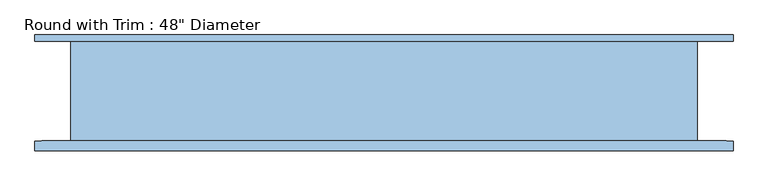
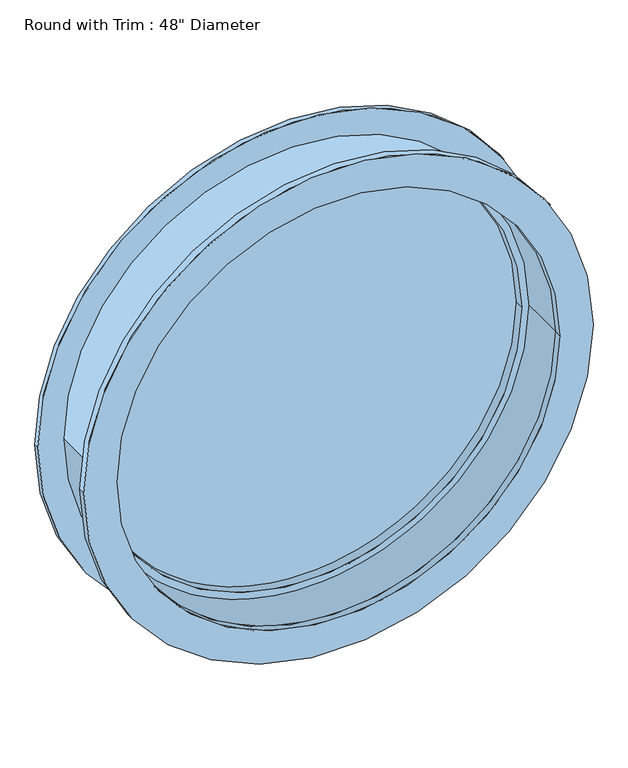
"""IFC4 building model written with IfcOpenShell, lengths in millimetres: window geometry."""

from ifc_helpers import new_model, si_unit, point, frame, frame_2d, origin, place, context, project, spatial, circle_curve, trimmed, segment, composite_curve, outline, extrude, source, transform, mapped, element, save


def window_30c34dd4(model_context):
    return source(origin(), model_context, "Body", "SweptSolid", [
        extrude(outline(composite_curve([segment(trimmed(circle_curve(frame_2d((1219.2, 152.4)), 679.45), [point((1219.2, -527.05))], [point((1219.2, 831.85))], False, "CARTESIAN"), True, "CONTINUOUS"), segment(trimmed(circle_curve(frame_2d((1219.2, 152.4)), 679.45), [point((1219.2, 831.85))], [point((1219.2, -527.05))], False, "CARTESIAN"), True, "CONTINUOUS")], self_intersect=False), holes=[composite_curve([segment(trimmed(circle_curve(frame_2d((1219.2, 152.4)), 590.55), [point((1219.2, -438.15))], [point((1219.2, 742.95))], True, "CARTESIAN"), True, "CONTINUOUS"), segment(trimmed(circle_curve(frame_2d((1219.2, 152.4)), 590.55), [point((1219.2, 742.95))], [point((1219.2, -438.15))], True, "CARTESIAN"), True, "CONTINUOUS")], self_intersect=False)]), frame((0.0, -115.8875, 0.0), z_axis=(0.0, 1.0, 0.0), x_axis=(0.0, 0.0, 1.0)), (0.0, 0.0, 1.0), 19.05),
        extrude(outline(composite_curve([segment(trimmed(circle_curve(frame_2d((1219.2, 152.4)), 679.45), [point((1219.2, -527.05))], [point((1219.2, 831.85))], False, "CARTESIAN"), True, "CONTINUOUS"), segment(trimmed(circle_curve(frame_2d((1219.2, 152.4)), 679.45), [point((1219.2, 831.85))], [point((1219.2, -527.05))], False, "CARTESIAN"), True, "CONTINUOUS")], self_intersect=False), holes=[composite_curve([segment(trimmed(circle_curve(frame_2d((1219.2, 152.4)), 590.55), [point((1219.2, -438.15))], [point((1219.2, 742.95))], True, "CARTESIAN"), True, "CONTINUOUS"), segment(trimmed(circle_curve(frame_2d((1219.2, 152.4)), 590.55), [point((1219.2, 742.95))], [point((1219.2, -438.15))], True, "CARTESIAN"), True, "CONTINUOUS")], self_intersect=False)]), frame((0.0, 96.8375, 0.0), z_axis=(0.0, 1.0, 0.0), x_axis=(0.0, 0.0, 1.0)), (0.0, 0.0, 1.0), 12.7),
        extrude(outline(composite_curve([segment(trimmed(circle_curve(frame_2d((1219.2, 152.4)), 571.5), [point((1219.2, -419.1))], [point((1219.2, 723.9))], False, "CARTESIAN"), True, "CONTINUOUS"), segment(trimmed(circle_curve(frame_2d((1219.2, 152.4)), 571.5), [point((1219.2, 723.9))], [point((1219.2, -419.1))], False, "CARTESIAN"), True, "CONTINUOUS")], self_intersect=False)), frame((0.0, 52.3875, 0.0), z_axis=(0.0, 1.0, 0.0), x_axis=(0.0, 0.0, 1.0)), (0.0, 0.0, 1.0), 12.7),
        extrude(outline(composite_curve([segment(trimmed(circle_curve(frame_2d((1219.2, 152.4)), 590.55), [point((1219.2, -438.15))], [point((1219.2, 742.95))], False, "CARTESIAN"), True, "CONTINUOUS"), segment(trimmed(circle_curve(frame_2d((1219.2, 152.4)), 590.55), [point((1219.2, 742.95))], [point((1219.2, -438.15))], False, "CARTESIAN"), True, "CONTINUOUS")], self_intersect=False), holes=[composite_curve([segment(trimmed(circle_curve(frame_2d((1219.2, 152.4)), 571.5), [point((1219.2, -419.1))], [point((1219.2, 723.9))], True, "CARTESIAN"), True, "CONTINUOUS"), segment(trimmed(circle_curve(frame_2d((1219.2, 152.4)), 571.5), [point((1219.2, 723.9))], [point((1219.2, -419.1))], True, "CARTESIAN"), True, "CONTINUOUS")], self_intersect=False)]), frame((0.0, 26.9875, 0.0), z_axis=(0.0, 1.0, 0.0), x_axis=(0.0, 0.0, 1.0)), (0.0, 0.0, 1.0), 50.8),
        extrude(outline(composite_curve([segment(trimmed(circle_curve(frame_2d((1219.2, 152.4)), 609.6), [point((1219.2, -457.2))], [point((1219.2, 762.0))], False, "CARTESIAN"), True, "CONTINUOUS"), segment(trimmed(circle_curve(frame_2d((1219.2, 152.4)), 609.6), [point((1219.2, 762.0))], [point((1219.2, -457.2))], False, "CARTESIAN"), True, "CONTINUOUS")], self_intersect=False), holes=[composite_curve([segment(trimmed(circle_curve(frame_2d((1219.2, 152.4)), 590.55), [point((1219.2, -438.15))], [point((1219.2, 742.95))], True, "CARTESIAN"), True, "CONTINUOUS"), segment(trimmed(circle_curve(frame_2d((1219.2, 152.4)), 590.55), [point((1219.2, 742.95))], [point((1219.2, -438.15))], True, "CARTESIAN"), True, "CONTINUOUS")], self_intersect=False)]), frame((0.0, -96.8375, 0.0), z_axis=(0.0, 1.0, 0.0), x_axis=(0.0, 0.0, 1.0)), (0.0, 0.0, 1.0), 193.675),
    ])


if __name__ == "__main__":
    model = new_model("IFC4")
    model_context = context("Model", 3, world=origin())
    ifc_project = project(units=[si_unit("LENGTHUNIT", "METRE", prefix="MILLI")], contexts=[model_context])
    site = spatial("IfcSite", under=ifc_project)
    building = spatial("IfcBuilding", under=site)
    placement = place(None, origin())
    window_shape = window_30c34dd4(model_context)
    element("IfcWindow", 1, ObjectType="Round with Trim : 48\" Diameter", at=placement, inside=building, context=model_context, shape_type="MappedRepresentation", body=[
        mapped(window_shape, transform((0.0, 0.0, 0.0), x_axis=(1.0, 0.0, 0.0), y_axis=(0.0, 1.0, 0.0), z_axis=(0.0, 0.0, 1.0))),
    ])
    save(model, "model.ifc")
